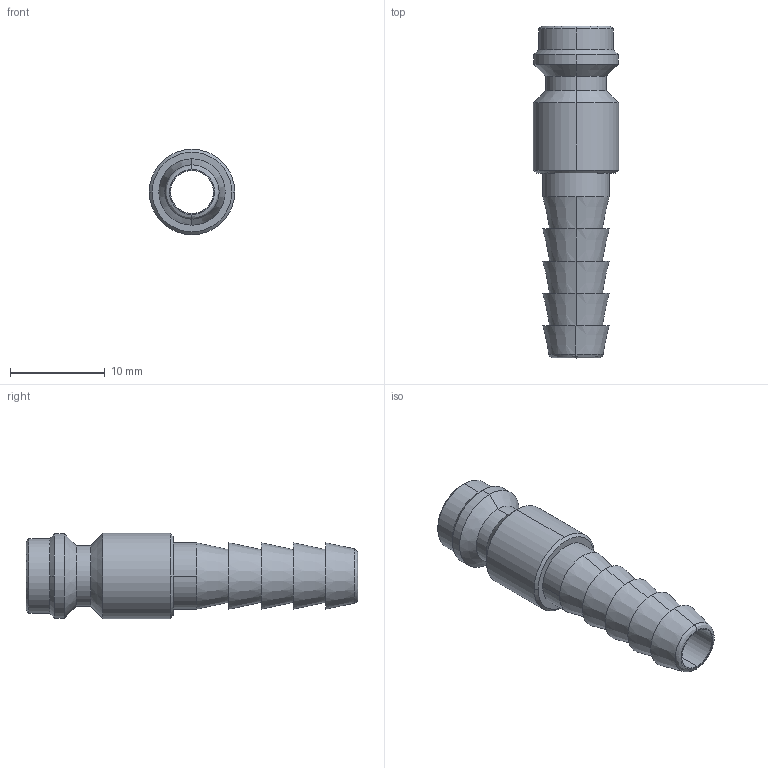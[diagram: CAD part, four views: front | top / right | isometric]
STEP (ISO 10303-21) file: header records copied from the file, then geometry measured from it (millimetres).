
FILE_DESCRIPTION (( 'STEP AP214' ), '1' );
FILE_NAME ('002150001X400A.STEP', '2012-11-19T17:18:52', ( '' ), ( '' ), 'SwSTEP 2.0', 'SolidWorks 2012', '' );
FILE_SCHEMA (( 'AUTOMOTIVE_DESIGN' ));
Length unit declared in the file: millimetre
Products named in the file (1): 002150001X400A
Bounding box: 9 x 35 x 9 mm (x, y, z)
Volume: 866.8 mm3; surface area: 1461.2 mm2
Topology: 1 solids, 1 shells, 45 faces, 98 edges, 60 vertices
Faces by surface type: cone 22, cylinder 14, plane 7, bspline 2
Entity records: 1476 total; most frequent: CARTESIAN_POINT 396, DIRECTION 240, ORIENTED_EDGE 196, AXIS2_PLACEMENT_3D 102, EDGE_CURVE 98, VERTEX_POINT 60, CIRCLE 58, EDGE_LOOP 52
